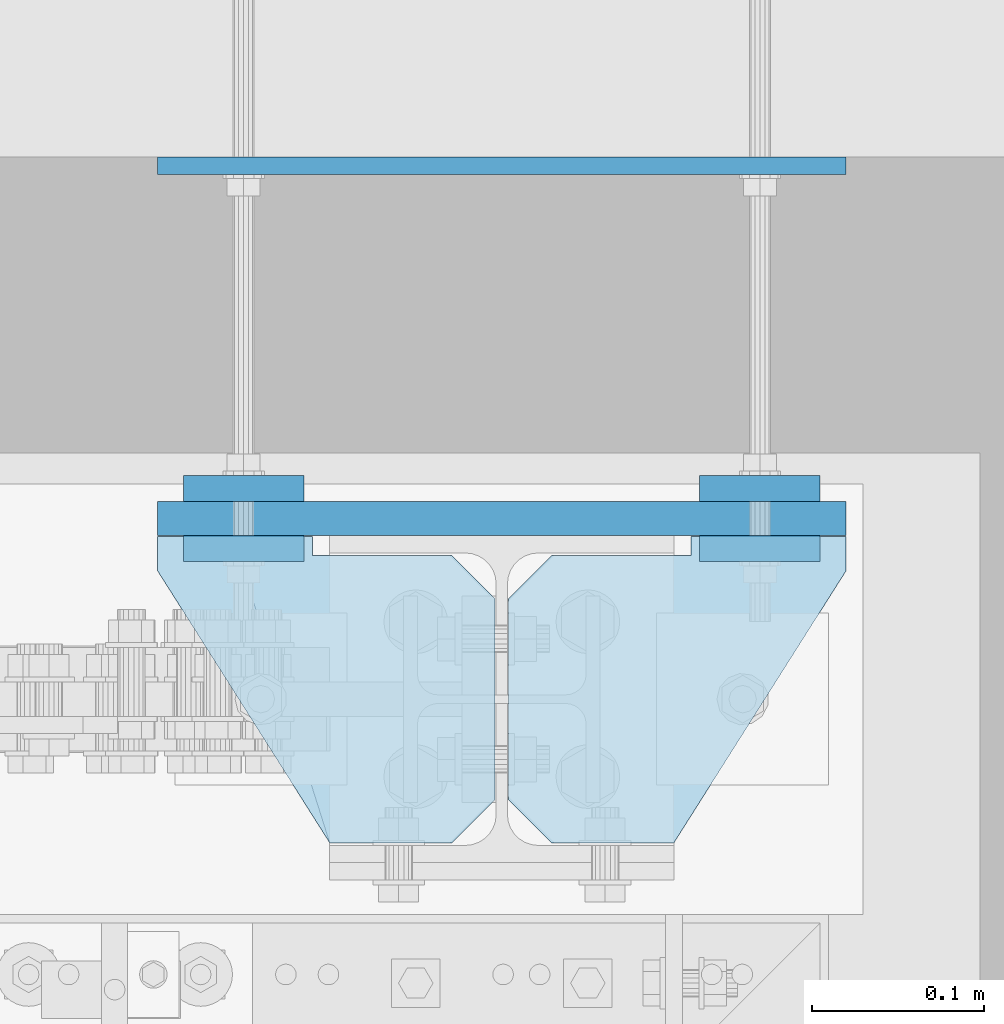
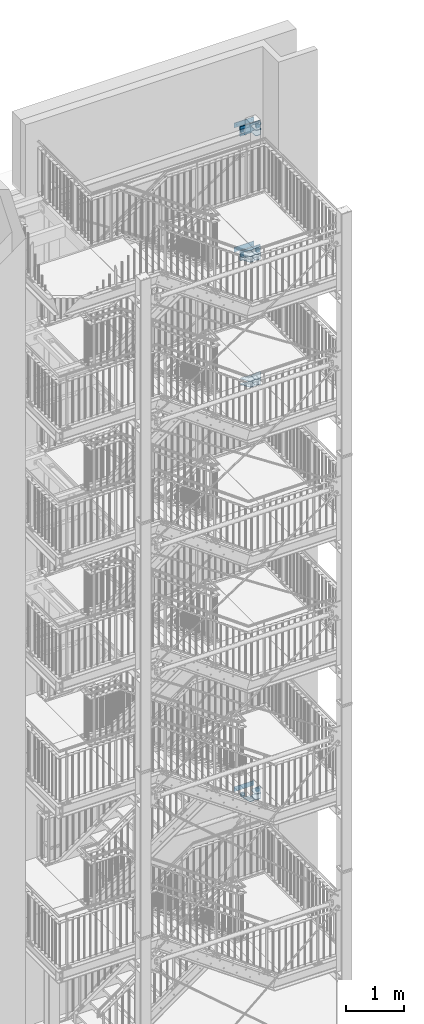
# One storey, part 216 of 831: 30 plates, 48 openings.
"""IFC2X3 building model written with IfcOpenShell, lengths in millimetres."""

from ifc_helpers import new_model, entity, si_unit, converted_unit, frame, frame_2d, origin, origin_with_axes, origin_2d_with_axis, place, context, project, spatial, polyline, circle, outline, extrude, material, layer, layer_set, element, save


model = new_model("IFC2X3")

# Units and contexts
model_context = context("Model", 3, precision=1e-09, world=origin_with_axes())
ifc_project = project(units=[si_unit("LENGTHUNIT", "METRE", prefix="MILLI"), si_unit("AREAUNIT", "SQUARE_METRE"), si_unit("VOLUMEUNIT", "CUBIC_METRE"), converted_unit("PLANEANGLEUNIT", "DEGREE", entity("IfcPlaneAngleMeasure", 0.01745329), si_unit("PLANEANGLEUNIT", "RADIAN"), dimensions=[0, 0, 0, 0, 0, 0, 0])], contexts=[model_context])

# Site, building, storey
site_placement = place(None, origin_with_axes())
site = spatial("IfcSite", under=ifc_project, at=site_placement, Name="Site", CompositionType="ELEMENT")
building_placement = place(site_placement, origin_with_axes())
building = spatial("IfcBuilding", under=site, at=building_placement, Name="Struktur 1", CompositionType="ELEMENT")
storey_placement = place(building_placement, origin_with_axes())
storey = spatial("IfcBuildingStorey", under=building, at=storey_placement, Name="Default Storey", CompositionType="ELEMENT", Elevation=0.0)

# Plate, openings
ifc_material = material(Name="S235JR")
ifc_layer_1 = layer(ifc_material, 10.0)
ifc_layer_set_1 = layer_set([ifc_layer_1], Name="S235JR")
plate_1_placement = place(None, frame((8666.713402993, 7611.236971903, 12569.000000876), z_axis=(0.0, 0.0, 1.0), x_axis=(0.0, -1.0, 0.0)))
plate_1 = element("IfcPlate", 1, at=plate_1_placement, inside=storey, material=ifc_layer_set_1, Name="-", ObjectType="-", context=model_context, shape_type="SweptSolid", body=[
    extrude(outline(polyline([(0.0, 0.0), (20.0, 0.0), (178.0, 100.0), (178.0, 196.0), (11.0, 196.0), (11.0, 90.0), (0.0, 90.0), (0.0, 0.0)])), origin_with_axes(), (0.0, 0.0, 1.0), 10.0),
])
opening_1_placement = place(plate_1_placement, frame((0.0, 0.0, -0.01), z_axis=(0.0, 0.0, 1.0), x_axis=(1.0, 0.0, 0.0)))
element("IfcOpeningElement", 2, at=opening_1_placement, cuts=plate_1, ObjectType="Opening", context=model_context, shape_type="SweptSolid", body=[
    extrude(outline(polyline([(11.0, 196.0), (11.0, 171.0), (36.0, 196.0), (11.0, 196.0)])), origin(), (0.0, 0.0, 1.0), 10.02),
])
opening_2_placement = place(plate_1_placement, frame((0.0, 0.0, -0.01), z_axis=(0.0, 0.0, 1.0), x_axis=(1.0, 0.0, 0.0)))
element("IfcOpeningElement", 3, at=opening_2_placement, cuts=plate_1, ObjectType="Opening", context=model_context, shape_type="SweptSolid", body=[
    extrude(outline(polyline([(178.0, 196.0), (153.0, 196.0), (178.0, 171.0), (178.0, 196.0)])), origin(), (0.0, 0.0, 1.0), 10.02),
])

plate_2_placement = place(None, frame((8666.713402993, 7611.236971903, 12449.000000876), z_axis=(0.0, 0.0, 1.0), x_axis=(0.0, -1.0, 0.0)))
plate_2 = element("IfcPlate", 4, at=plate_2_placement, inside=storey, material=ifc_layer_set_1, Name="-", ObjectType="-", context=model_context, shape_type="SweptSolid", body=[
    extrude(outline(polyline([(0.0, 0.0), (20.0, 0.0), (178.0, 100.0), (178.0, 196.0), (11.0, 196.0), (11.0, 90.0), (0.0, 90.0), (0.0, 0.0)])), origin_with_axes(), (0.0, 0.0, 1.0), 10.0),
])
opening_3_placement = place(plate_2_placement, frame((0.0, 0.0, -0.01), z_axis=(0.0, 0.0, 1.0), x_axis=(1.0, 0.0, 0.0)))
element("IfcOpeningElement", 5, at=opening_3_placement, cuts=plate_2, ObjectType="Opening", context=model_context, shape_type="SweptSolid", body=[
    extrude(outline(polyline([(11.0, 196.0), (11.0, 171.0), (36.0, 196.0), (11.0, 196.0)])), origin(), (0.0, 0.0, 1.0), 10.02),
])
opening_4_placement = place(plate_2_placement, frame((0.0, 0.0, -0.01), z_axis=(0.0, 0.0, 1.0), x_axis=(1.0, 0.0, 0.0)))
element("IfcOpeningElement", 6, at=opening_4_placement, cuts=plate_2, ObjectType="Opening", context=model_context, shape_type="SweptSolid", body=[
    extrude(outline(polyline([(178.0, 196.0), (153.0, 196.0), (178.0, 171.0), (178.0, 196.0)])), origin(), (0.0, 0.0, 1.0), 10.02),
])

plate_3_placement = place(None, frame((9066.713402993, 7611.236971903, 12569.000000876), z_axis=(0.0, 0.0, -1.0), x_axis=(0.0, -1.0, 0.0)))
plate_3 = element("IfcPlate", 7, at=plate_3_placement, inside=storey, material=ifc_layer_set_1, Name="-", ObjectType="-", context=model_context, shape_type="SweptSolid", body=[
    extrude(outline(polyline([(0.0, 0.0), (20.0, 0.0), (178.0, 100.0), (178.0, 196.0), (11.0, 196.0), (11.0, 90.0), (0.0, 90.0), (0.0, 0.0)])), origin_with_axes(), (0.0, 0.0, -1.0), 10.0),
])
opening_5_placement = place(plate_3_placement, frame((11.0, 196.0, 0.01), z_axis=(0.0, 0.0, 1.0), x_axis=(0.0, -1.0, 0.0)))
element("IfcOpeningElement", 8, at=opening_5_placement, cuts=plate_3, ObjectType="Opening", context=model_context, shape_type="SweptSolid", body=[
    extrude(outline(polyline([(0.0, 0.0), (25.0, 0.0), (0.0, 25.0), (0.0, 0.0)])), origin(), (0.0, 0.0, -1.0), 10.02),
])
opening_6_placement = place(plate_3_placement, frame((178.0, 196.0, 0.01), z_axis=(0.0, 0.0, 1.0), x_axis=(-1.0, 0.0, 0.0)))
element("IfcOpeningElement", 9, at=opening_6_placement, cuts=plate_3, ObjectType="Opening", context=model_context, shape_type="SweptSolid", body=[
    extrude(outline(polyline([(0.0, 0.0), (25.0, 0.0), (0.0, 25.0), (0.0, 0.0)])), origin(), (0.0, 0.0, -1.0), 10.02),
])

plate_4_placement = place(None, frame((9066.713402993, 7611.236971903, 12449.000000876), z_axis=(0.0, 0.0, -1.0), x_axis=(0.0, -1.0, 0.0)))
plate_4 = element("IfcPlate", 10, at=plate_4_placement, inside=storey, material=ifc_layer_set_1, Name="-", ObjectType="-", context=model_context, shape_type="SweptSolid", body=[
    extrude(outline(polyline([(0.0, 0.0), (20.0, 0.0), (178.0, 100.0), (178.0, 196.0), (11.0, 196.0), (11.0, 90.0), (0.0, 90.0), (0.0, 0.0)])), origin_with_axes(), (0.0, 0.0, -1.0), 10.0),
])
opening_7_placement = place(plate_4_placement, frame((11.0, 196.0, 0.01), z_axis=(0.0, 0.0, 1.0), x_axis=(0.0, -1.0, 0.0)))
element("IfcOpeningElement", 11, at=opening_7_placement, cuts=plate_4, ObjectType="Opening", context=model_context, shape_type="SweptSolid", body=[
    extrude(outline(polyline([(0.0, 0.0), (25.0, 0.0), (0.0, 25.0), (0.0, 0.0)])), origin(), (0.0, 0.0, -1.0), 10.02),
])
opening_8_placement = place(plate_4_placement, frame((178.0, 196.0, 0.01), z_axis=(0.0, 0.0, 1.0), x_axis=(-1.0, 0.0, 0.0)))
element("IfcOpeningElement", 12, at=opening_8_placement, cuts=plate_4, ObjectType="Opening", context=model_context, shape_type="SweptSolid", body=[
    extrude(outline(polyline([(0.0, 0.0), (25.0, 0.0), (0.0, 25.0), (0.0, 0.0)])), origin(), (0.0, 0.0, -1.0), 10.02),
])

# Plate, opening
ifc_layer_2 = layer(ifc_material, 15.0)
ifc_layer_set_2 = layer_set([ifc_layer_2], Name="S235JR")
plate_5_placement = place(None, frame((9016.713403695, 7646.736971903, 15149.0), z_axis=(0.0, 1.0, 0.0), x_axis=(-1.0, 0.0, 0.0)))
plate_5 = element("IfcPlate", 13, at=plate_5_placement, inside=storey, material=ifc_layer_set_2, Name="-", ObjectType="-", context=model_context, shape_type="SweptSolid", body=[
    extrude(outline(polyline([(-35.0, -35.0), (35.0, -35.0), (35.0, 35.0), (-35.0, 35.0), (-35.0, -35.0)])), origin_with_axes(), (0.0, 0.0, -1.0), 15.0),
])
opening_9_placement = place(plate_5_placement, frame((-7.001000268, 0.0, 0.5), z_axis=(0.0, 0.0, 1.0), x_axis=(1.0, 0.0, 0.0)))
element("IfcOpeningElement", 14, at=opening_9_placement, cuts=plate_5, ObjectType="Opening", context=model_context, shape_type="SweptSolid", body=[
    extrude(circle(Radius=7.001, at=frame_2d((7.001, 0.0), x_axis=(1.0, 0.0))), origin(), (0.0, 0.0, -1.0), 16.0),
])

plate_6_placement = place(None, frame((9016.713403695, 7611.736971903, 15149.0), z_axis=(0.0, 1.0, 0.0), x_axis=(-1.0, 0.0, 0.0)))
plate_6 = element("IfcPlate", 15, at=plate_6_placement, inside=storey, material=ifc_layer_set_2, Name="-", ObjectType="-", context=model_context, shape_type="SweptSolid", body=[
    extrude(outline(polyline([(-35.0, -35.0), (35.0, -35.0), (35.0, 35.0), (-35.0, 35.0), (-35.0, -35.0)])), origin_with_axes(), (0.0, 0.0, -1.0), 15.0),
])
opening_10_placement = place(plate_6_placement, frame((-7.001000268, 0.0, 0.5), z_axis=(0.0, 0.0, 1.0), x_axis=(1.0, 0.0, 0.0)))
element("IfcOpeningElement", 16, at=opening_10_placement, cuts=plate_6, ObjectType="Opening", context=model_context, shape_type="SweptSolid", body=[
    extrude(circle(Radius=7.001, at=frame_2d((7.001, 0.0), x_axis=(1.0, 0.0))), origin(), (0.0, 0.0, -1.0), 16.0),
])

# Plate, openings
plate_7_placement = place(None, frame((8866.713402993, 7831.736971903, 15149.000000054), z_axis=(0.0, -1.0, 0.0), x_axis=(1.0, 0.0, 0.0)))
plate_7 = element("IfcPlate", 17, at=plate_7_placement, inside=storey, material=ifc_layer_set_1, Name="-", ObjectType="-", context=model_context, shape_type="SweptSolid", body=[
    extrude(outline(polyline([(-200.0, -50.0), (200.0, -50.0), (200.0, 50.0), (-200.0, 50.0), (-200.0, -50.0)])), origin_with_axes(), (0.0, 0.0, 1.0), 10.0),
])
opening_11_placement = place(plate_7_placement, frame((-3.4e-08, -5.4e-08, -0.5), z_axis=(0.0, 0.0, 1.0), x_axis=(1.0, 0.0, 0.0)))
element("IfcOpeningElement", 18, at=opening_11_placement, cuts=plate_7, ObjectType="Opening", context=model_context, shape_type="SweptSolid", body=[
    extrude(circle(Radius=7.001, at=frame_2d((150.0, 0.0), x_axis=(1.0, 0.0))), origin(), (0.0, 0.0, 1.0), 11.0),
])
opening_12_placement = place(plate_7_placement, frame((-3.4e-08, -5.4e-08, -0.5), z_axis=(0.0, 0.0, 1.0), x_axis=(1.0, 0.0, 0.0)))
element("IfcOpeningElement", 19, at=opening_12_placement, cuts=plate_7, ObjectType="Opening", context=model_context, shape_type="SweptSolid", body=[
    extrude(circle(Radius=7.001, at=frame_2d((-150.0, 0.0), x_axis=(1.0, 0.0))), origin(), (0.0, 0.0, 1.0), 11.0),
])

# Plate, opening
plate_8_placement = place(None, frame((8716.71340296, 7646.736971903, 15149.0), z_axis=(0.0, -1.0, 0.0), x_axis=(1.0, 0.0, 0.0)))
plate_8 = element("IfcPlate", 20, at=plate_8_placement, inside=storey, material=ifc_layer_set_2, Name="-", ObjectType="-", context=model_context, shape_type="SweptSolid", body=[
    extrude(outline(polyline([(-35.0, -35.0), (35.0, -35.0), (35.0, 35.0), (-35.0, 35.0), (-35.0, -35.0)])), origin_with_axes(), (0.0, 0.0, 1.0), 15.0),
])
opening_13_placement = place(plate_8_placement, frame((-2.68e-07, 0.0, -0.5), z_axis=(0.0, 0.0, 1.0), x_axis=(1.0, 0.0, 0.0)))
element("IfcOpeningElement", 21, at=opening_13_placement, cuts=plate_8, ObjectType="Opening", context=model_context, shape_type="SweptSolid", body=[
    extrude(circle(Radius=7.001, at=origin_2d_with_axis()), origin(), (0.0, 0.0, 1.0), 16.0),
])

plate_9_placement = place(None, frame((8716.71340296, 7611.736971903, 15149.0), z_axis=(0.0, -1.0, 0.0), x_axis=(1.0, 0.0, 0.0)))
plate_9 = element("IfcPlate", 22, at=plate_9_placement, inside=storey, material=ifc_layer_set_2, Name="-", ObjectType="-", context=model_context, shape_type="SweptSolid", body=[
    extrude(outline(polyline([(-35.0, -35.0), (35.0, -35.0), (35.0, 35.0), (-35.0, 35.0), (-35.0, -35.0)])), origin_with_axes(), (0.0, 0.0, 1.0), 15.0),
])
opening_14_placement = place(plate_9_placement, frame((-2.68e-07, 0.0, -0.5), z_axis=(0.0, 0.0, 1.0), x_axis=(1.0, 0.0, 0.0)))
element("IfcOpeningElement", 23, at=opening_14_placement, cuts=plate_9, ObjectType="Opening", context=model_context, shape_type="SweptSolid", body=[
    extrude(circle(Radius=7.001, at=origin_2d_with_axis()), origin(), (0.0, 0.0, 1.0), 16.0),
])

# Plate, openings
plate_10_placement = place(None, frame((9066.713402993, 7611.236971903, 15084.000000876), z_axis=(0.0, 0.0, -1.0), x_axis=(0.0, -1.0, 0.0)))
plate_10 = element("IfcPlate", 24, at=plate_10_placement, inside=storey, material=ifc_layer_set_1, Name="-", ObjectType="-", context=model_context, shape_type="SweptSolid", body=[
    extrude(outline(polyline([(0.0, 0.0), (20.0, 0.0), (178.0, 100.0), (178.0, 196.0), (11.0, 196.0), (11.0, 90.0), (0.0, 90.0), (0.0, 0.0)])), origin_with_axes(), (0.0, 0.0, -1.0), 10.0),
])
opening_15_placement = place(plate_10_placement, frame((11.0, 196.0, 0.01), z_axis=(0.0, 0.0, 1.0), x_axis=(0.0, -1.0, 0.0)))
element("IfcOpeningElement", 25, at=opening_15_placement, cuts=plate_10, ObjectType="Opening", context=model_context, shape_type="SweptSolid", body=[
    extrude(outline(polyline([(0.0, 0.0), (25.0, 0.0), (0.0, 25.0), (0.0, 0.0)])), origin(), (0.0, 0.0, -1.0), 10.02),
])
opening_16_placement = place(plate_10_placement, frame((178.0, 196.0, 0.01), z_axis=(0.0, 0.0, 1.0), x_axis=(-1.0, 0.0, 0.0)))
element("IfcOpeningElement", 26, at=opening_16_placement, cuts=plate_10, ObjectType="Opening", context=model_context, shape_type="SweptSolid", body=[
    extrude(outline(polyline([(0.0, 0.0), (25.0, 0.0), (0.0, 25.0), (0.0, 0.0)])), origin(), (0.0, 0.0, -1.0), 10.02),
])

plate_11_placement = place(None, frame((9066.713402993, 7611.236971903, 15204.000000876), z_axis=(0.0, 0.0, -1.0), x_axis=(0.0, -1.0, 0.0)))
plate_11 = element("IfcPlate", 27, at=plate_11_placement, inside=storey, material=ifc_layer_set_1, Name="-", ObjectType="-", context=model_context, shape_type="SweptSolid", body=[
    extrude(outline(polyline([(0.0, 0.0), (20.0, 0.0), (178.0, 100.0), (178.0, 196.0), (11.0, 196.0), (11.0, 90.0), (0.0, 90.0), (0.0, 0.0)])), origin_with_axes(), (0.0, 0.0, -1.0), 10.0),
])
opening_17_placement = place(plate_11_placement, frame((11.0, 196.0, 0.01), z_axis=(0.0, 0.0, 1.0), x_axis=(0.0, -1.0, 0.0)))
element("IfcOpeningElement", 28, at=opening_17_placement, cuts=plate_11, ObjectType="Opening", context=model_context, shape_type="SweptSolid", body=[
    extrude(outline(polyline([(0.0, 0.0), (25.0, 0.0), (0.0, 25.0), (0.0, 0.0)])), origin(), (0.0, 0.0, -1.0), 10.02),
])
opening_18_placement = place(plate_11_placement, frame((178.0, 196.0, 0.01), z_axis=(0.0, 0.0, 1.0), x_axis=(-1.0, 0.0, 0.0)))
element("IfcOpeningElement", 29, at=opening_18_placement, cuts=plate_11, ObjectType="Opening", context=model_context, shape_type="SweptSolid", body=[
    extrude(outline(polyline([(0.0, 0.0), (25.0, 0.0), (0.0, 25.0), (0.0, 0.0)])), origin(), (0.0, 0.0, -1.0), 10.02),
])

plate_12_placement = place(None, frame((8666.713402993, 7611.236971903, 15084.000000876), z_axis=(0.0, 0.0, 1.0), x_axis=(0.0, -1.0, 0.0)))
plate_12 = element("IfcPlate", 30, at=plate_12_placement, inside=storey, material=ifc_layer_set_1, Name="-", ObjectType="-", context=model_context, shape_type="SweptSolid", body=[
    extrude(outline(polyline([(0.0, 0.0), (20.0, 0.0), (178.0, 100.0), (178.0, 196.0), (11.0, 196.0), (11.0, 90.0), (0.0, 90.0), (0.0, 0.0)])), origin_with_axes(), (0.0, 0.0, 1.0), 10.0),
])
opening_19_placement = place(plate_12_placement, frame((0.0, 0.0, -0.01), z_axis=(0.0, 0.0, 1.0), x_axis=(1.0, 0.0, 0.0)))
element("IfcOpeningElement", 31, at=opening_19_placement, cuts=plate_12, ObjectType="Opening", context=model_context, shape_type="SweptSolid", body=[
    extrude(outline(polyline([(11.0, 196.0), (11.0, 171.0), (36.0, 196.0), (11.0, 196.0)])), origin(), (0.0, 0.0, 1.0), 10.02),
])
opening_20_placement = place(plate_12_placement, frame((0.0, 0.0, -0.01), z_axis=(0.0, 0.0, 1.0), x_axis=(1.0, 0.0, 0.0)))
element("IfcOpeningElement", 32, at=opening_20_placement, cuts=plate_12, ObjectType="Opening", context=model_context, shape_type="SweptSolid", body=[
    extrude(outline(polyline([(178.0, 196.0), (153.0, 196.0), (178.0, 171.0), (178.0, 196.0)])), origin(), (0.0, 0.0, 1.0), 10.02),
])

plate_13_placement = place(None, frame((8666.713402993, 7611.236971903, 15204.000000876), z_axis=(0.0, 0.0, 1.0), x_axis=(0.0, -1.0, 0.0)))
plate_13 = element("IfcPlate", 33, at=plate_13_placement, inside=storey, material=ifc_layer_set_1, Name="-", ObjectType="-", context=model_context, shape_type="SweptSolid", body=[
    extrude(outline(polyline([(0.0, 0.0), (20.0, 0.0), (178.0, 100.0), (178.0, 196.0), (11.0, 196.0), (11.0, 90.0), (0.0, 90.0), (0.0, 0.0)])), origin_with_axes(), (0.0, 0.0, 1.0), 10.0),
])
opening_21_placement = place(plate_13_placement, frame((0.0, 0.0, -0.01), z_axis=(0.0, 0.0, 1.0), x_axis=(1.0, 0.0, 0.0)))
element("IfcOpeningElement", 34, at=opening_21_placement, cuts=plate_13, ObjectType="Opening", context=model_context, shape_type="SweptSolid", body=[
    extrude(outline(polyline([(11.0, 196.0), (11.0, 171.0), (36.0, 196.0), (11.0, 196.0)])), origin(), (0.0, 0.0, 1.0), 10.02),
])
opening_22_placement = place(plate_13_placement, frame((0.0, 0.0, -0.01), z_axis=(0.0, 0.0, 1.0), x_axis=(1.0, 0.0, 0.0)))
element("IfcOpeningElement", 35, at=opening_22_placement, cuts=plate_13, ObjectType="Opening", context=model_context, shape_type="SweptSolid", body=[
    extrude(outline(polyline([(178.0, 196.0), (153.0, 196.0), (178.0, 171.0), (178.0, 196.0)])), origin(), (0.0, 0.0, 1.0), 10.02),
])

ifc_layer_3 = layer(ifc_material, 20.0)
ifc_layer_set_3 = layer_set([ifc_layer_3], Name="S235JR")
plate_14_placement = place(None, frame((8866.713402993, 7631.736971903, 15149.000000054), z_axis=(0.0, -1.0, 0.0), x_axis=(1.0, 0.0, 0.0)))
plate_14 = element("IfcPlate", 36, at=plate_14_placement, inside=storey, material=ifc_layer_set_3, Name="-", ObjectType="-", context=model_context, shape_type="SweptSolid", body=[
    extrude(outline(polyline([(-200.0, -100.0), (200.0, -100.0), (200.0, 100.0), (-200.0, 100.0), (-200.0, -100.0)])), origin_with_axes(), (0.0, 0.0, 1.0), 20.0),
])
opening_23_placement = place(plate_14_placement, frame((-3.4e-08, -5.4e-08, -0.5), z_axis=(0.0, 0.0, 1.0), x_axis=(1.0, 0.0, 0.0)))
element("IfcOpeningElement", 37, at=opening_23_placement, cuts=plate_14, ObjectType="Opening", context=model_context, shape_type="SweptSolid", body=[
    extrude(circle(Radius=20.001, at=frame_2d((150.0, 0.0), x_axis=(1.0, 0.0))), origin(), (0.0, 0.0, 1.0), 21.0),
])
opening_24_placement = place(plate_14_placement, frame((-3.4e-08, -5.4e-08, -0.5), z_axis=(0.0, 0.0, 1.0), x_axis=(1.0, 0.0, 0.0)))
element("IfcOpeningElement", 38, at=opening_24_placement, cuts=plate_14, ObjectType="Opening", context=model_context, shape_type="SweptSolid", body=[
    extrude(circle(Radius=20.001, at=frame_2d((-150.0, 0.0), x_axis=(1.0, 0.0))), origin(), (0.0, 0.0, 1.0), 21.0),
])

# Plate, opening
plate_15_placement = place(None, frame((8716.71340296, 7611.736971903, 17769.0), z_axis=(0.0, -1.0, 0.0), x_axis=(1.0, 0.0, 0.0)))
plate_15 = element("IfcPlate", 39, at=plate_15_placement, inside=storey, material=ifc_layer_set_2, Name="-", ObjectType="-", context=model_context, shape_type="SweptSolid", body=[
    extrude(outline(polyline([(-35.0, -35.0), (35.0, -35.0), (35.0, 35.0), (-35.0, 35.0), (-35.0, -35.0)])), origin_with_axes(), (0.0, 0.0, 1.0), 15.0),
])
opening_25_placement = place(plate_15_placement, frame((-2.68e-07, 0.0, -0.5), z_axis=(0.0, 0.0, 1.0), x_axis=(1.0, 0.0, 0.0)))
element("IfcOpeningElement", 40, at=opening_25_placement, cuts=plate_15, ObjectType="Opening", context=model_context, shape_type="SweptSolid", body=[
    extrude(circle(Radius=7.001, at=origin_2d_with_axis()), origin(), (0.0, 0.0, 1.0), 16.0),
])

plate_16_placement = place(None, frame((8716.71340296, 7646.736971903, 17769.0), z_axis=(0.0, -1.0, 0.0), x_axis=(1.0, 0.0, 0.0)))
plate_16 = element("IfcPlate", 41, at=plate_16_placement, inside=storey, material=ifc_layer_set_2, Name="-", ObjectType="-", context=model_context, shape_type="SweptSolid", body=[
    extrude(outline(polyline([(-35.0, -35.0), (35.0, -35.0), (35.0, 35.0), (-35.0, 35.0), (-35.0, -35.0)])), origin_with_axes(), (0.0, 0.0, 1.0), 15.0),
])
opening_26_placement = place(plate_16_placement, frame((-2.68e-07, 0.0, -0.5), z_axis=(0.0, 0.0, 1.0), x_axis=(1.0, 0.0, 0.0)))
element("IfcOpeningElement", 42, at=opening_26_placement, cuts=plate_16, ObjectType="Opening", context=model_context, shape_type="SweptSolid", body=[
    extrude(circle(Radius=7.001, at=origin_2d_with_axis()), origin(), (0.0, 0.0, 1.0), 16.0),
])

# Plate, openings
plate_17_placement = place(None, frame((8866.713402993, 7831.736971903, 17769.000000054), z_axis=(0.0, -1.0, 0.0), x_axis=(1.0, 0.0, 0.0)))
plate_17 = element("IfcPlate", 43, at=plate_17_placement, inside=storey, material=ifc_layer_set_1, Name="-", ObjectType="-", context=model_context, shape_type="SweptSolid", body=[
    extrude(outline(polyline([(-200.0, -50.0), (200.0, -50.0), (200.0, 50.0), (-200.0, 50.0), (-200.0, -50.0)])), origin_with_axes(), (0.0, 0.0, 1.0), 10.0),
])
opening_27_placement = place(plate_17_placement, frame((-3.4e-08, -5.4e-08, -0.5), z_axis=(0.0, 0.0, 1.0), x_axis=(1.0, 0.0, 0.0)))
element("IfcOpeningElement", 44, at=opening_27_placement, cuts=plate_17, ObjectType="Opening", context=model_context, shape_type="SweptSolid", body=[
    extrude(circle(Radius=7.001, at=frame_2d((150.0, 0.0), x_axis=(1.0, 0.0))), origin(), (0.0, 0.0, 1.0), 11.0),
])
opening_28_placement = place(plate_17_placement, frame((-3.4e-08, -5.4e-08, -0.5), z_axis=(0.0, 0.0, 1.0), x_axis=(1.0, 0.0, 0.0)))
element("IfcOpeningElement", 45, at=opening_28_placement, cuts=plate_17, ObjectType="Opening", context=model_context, shape_type="SweptSolid", body=[
    extrude(circle(Radius=7.001, at=frame_2d((-150.0, 0.0), x_axis=(1.0, 0.0))), origin(), (0.0, 0.0, 1.0), 11.0),
])

# Plate, opening
plate_18_placement = place(None, frame((9016.713403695, 7611.736971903, 17769.0), z_axis=(0.0, 1.0, 0.0), x_axis=(-1.0, 0.0, 0.0)))
plate_18 = element("IfcPlate", 46, at=plate_18_placement, inside=storey, material=ifc_layer_set_2, Name="-", ObjectType="-", context=model_context, shape_type="SweptSolid", body=[
    extrude(outline(polyline([(-35.0, -35.0), (35.0, -35.0), (35.0, 35.0), (-35.0, 35.0), (-35.0, -35.0)])), origin_with_axes(), (0.0, 0.0, -1.0), 15.0),
])
opening_29_placement = place(plate_18_placement, frame((-7.001000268, 0.0, 0.5), z_axis=(0.0, 0.0, 1.0), x_axis=(1.0, 0.0, 0.0)))
element("IfcOpeningElement", 47, at=opening_29_placement, cuts=plate_18, ObjectType="Opening", context=model_context, shape_type="SweptSolid", body=[
    extrude(circle(Radius=7.001, at=frame_2d((7.001, 0.0), x_axis=(1.0, 0.0))), origin(), (0.0, 0.0, -1.0), 16.0),
])

plate_19_placement = place(None, frame((9016.713403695, 7646.736971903, 17769.0), z_axis=(0.0, 1.0, 0.0), x_axis=(-1.0, 0.0, 0.0)))
plate_19 = element("IfcPlate", 48, at=plate_19_placement, inside=storey, material=ifc_layer_set_2, Name="-", ObjectType="-", context=model_context, shape_type="SweptSolid", body=[
    extrude(outline(polyline([(-35.0, -35.0), (35.0, -35.0), (35.0, 35.0), (-35.0, 35.0), (-35.0, -35.0)])), origin_with_axes(), (0.0, 0.0, -1.0), 15.0),
])
opening_30_placement = place(plate_19_placement, frame((-7.001000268, 0.0, 0.5), z_axis=(0.0, 0.0, 1.0), x_axis=(1.0, 0.0, 0.0)))
element("IfcOpeningElement", 49, at=opening_30_placement, cuts=plate_19, ObjectType="Opening", context=model_context, shape_type="SweptSolid", body=[
    extrude(circle(Radius=7.001, at=frame_2d((7.001, 0.0), x_axis=(1.0, 0.0))), origin(), (0.0, 0.0, -1.0), 16.0),
])

# Plate, openings
plate_20_placement = place(None, frame((8866.713402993, 7631.736971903, 17769.000000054), z_axis=(0.0, -1.0, 0.0), x_axis=(1.0, 0.0, 0.0)))
plate_20 = element("IfcPlate", 50, at=plate_20_placement, inside=storey, material=ifc_layer_set_3, Name="-", ObjectType="-", context=model_context, shape_type="SweptSolid", body=[
    extrude(outline(polyline([(-200.0, -100.0), (200.0, -100.0), (200.0, 100.0), (-200.0, 100.0), (-200.0, -100.0)])), origin_with_axes(), (0.0, 0.0, 1.0), 20.0),
])
opening_31_placement = place(plate_20_placement, frame((-3.4e-08, -5.4e-08, -0.5), z_axis=(0.0, 0.0, 1.0), x_axis=(1.0, 0.0, 0.0)))
element("IfcOpeningElement", 51, at=opening_31_placement, cuts=plate_20, ObjectType="Opening", context=model_context, shape_type="SweptSolid", body=[
    extrude(circle(Radius=20.001, at=frame_2d((150.0, 0.0), x_axis=(1.0, 0.0))), origin(), (0.0, 0.0, 1.0), 21.0),
])
opening_32_placement = place(plate_20_placement, frame((-3.4e-08, -5.4e-08, -0.5), z_axis=(0.0, 0.0, 1.0), x_axis=(1.0, 0.0, 0.0)))
element("IfcOpeningElement", 52, at=opening_32_placement, cuts=plate_20, ObjectType="Opening", context=model_context, shape_type="SweptSolid", body=[
    extrude(circle(Radius=20.001, at=frame_2d((-150.0, 0.0), x_axis=(1.0, 0.0))), origin(), (0.0, 0.0, 1.0), 21.0),
])

plate_21_placement = place(None, frame((9066.713402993, 7611.236971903, 17824.000000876), z_axis=(0.0, 0.0, -1.0), x_axis=(0.0, -1.0, 0.0)))
plate_21 = element("IfcPlate", 53, at=plate_21_placement, inside=storey, material=ifc_layer_set_1, Name="-", ObjectType="-", context=model_context, shape_type="SweptSolid", body=[
    extrude(outline(polyline([(0.0, 0.0), (20.0, 0.0), (178.0, 100.0), (178.0, 196.0), (11.0, 196.0), (11.0, 90.0), (0.0, 90.0), (0.0, 0.0)])), origin_with_axes(), (0.0, 0.0, -1.0), 10.0),
])
opening_33_placement = place(plate_21_placement, frame((11.0, 196.0, 0.01), z_axis=(0.0, 0.0, 1.0), x_axis=(0.0, -1.0, 0.0)))
element("IfcOpeningElement", 54, at=opening_33_placement, cuts=plate_21, ObjectType="Opening", context=model_context, shape_type="SweptSolid", body=[
    extrude(outline(polyline([(0.0, 0.0), (25.0, 0.0), (0.0, 25.0), (0.0, 0.0)])), origin(), (0.0, 0.0, -1.0), 10.02),
])
opening_34_placement = place(plate_21_placement, frame((178.0, 196.0, 0.01), z_axis=(0.0, 0.0, 1.0), x_axis=(-1.0, 0.0, 0.0)))
element("IfcOpeningElement", 55, at=opening_34_placement, cuts=plate_21, ObjectType="Opening", context=model_context, shape_type="SweptSolid", body=[
    extrude(outline(polyline([(0.0, 0.0), (25.0, 0.0), (0.0, 25.0), (0.0, 0.0)])), origin(), (0.0, 0.0, -1.0), 10.02),
])

plate_22_placement = place(None, frame((9066.713402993, 7611.236971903, 17704.000000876), z_axis=(0.0, 0.0, -1.0), x_axis=(0.0, -1.0, 0.0)))
plate_22 = element("IfcPlate", 56, at=plate_22_placement, inside=storey, material=ifc_layer_set_1, Name="-", ObjectType="-", context=model_context, shape_type="SweptSolid", body=[
    extrude(outline(polyline([(0.0, 0.0), (20.0, 0.0), (178.0, 100.0), (178.0, 196.0), (11.0, 196.0), (11.0, 90.0), (0.0, 90.0), (0.0, 0.0)])), origin_with_axes(), (0.0, 0.0, -1.0), 10.0),
])
opening_35_placement = place(plate_22_placement, frame((11.0, 196.0, 0.01), z_axis=(0.0, 0.0, 1.0), x_axis=(0.0, -1.0, 0.0)))
element("IfcOpeningElement", 57, at=opening_35_placement, cuts=plate_22, ObjectType="Opening", context=model_context, shape_type="SweptSolid", body=[
    extrude(outline(polyline([(0.0, 0.0), (25.0, 0.0), (0.0, 25.0), (0.0, 0.0)])), origin(), (0.0, 0.0, -1.0), 10.02),
])
opening_36_placement = place(plate_22_placement, frame((178.0, 196.0, 0.01), z_axis=(0.0, 0.0, 1.0), x_axis=(-1.0, 0.0, 0.0)))
element("IfcOpeningElement", 58, at=opening_36_placement, cuts=plate_22, ObjectType="Opening", context=model_context, shape_type="SweptSolid", body=[
    extrude(outline(polyline([(0.0, 0.0), (25.0, 0.0), (0.0, 25.0), (0.0, 0.0)])), origin(), (0.0, 0.0, -1.0), 10.02),
])

# Plate, opening
plate_23_placement = place(None, frame((9016.713403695, 7646.736971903, 3782.0), z_axis=(0.0, 1.0, 0.0), x_axis=(-1.0, 0.0, 0.0)))
plate_23 = element("IfcPlate", 59, at=plate_23_placement, inside=storey, material=ifc_layer_set_2, Name="-", ObjectType="-", context=model_context, shape_type="SweptSolid", body=[
    extrude(outline(polyline([(-35.0, -35.0), (35.0, -35.0), (35.0, 35.0), (-35.0, 35.0), (-35.0, -35.0)])), origin_with_axes(), (0.0, 0.0, -1.0), 15.0),
])
opening_37_placement = place(plate_23_placement, frame((-7.001000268, 0.0, 0.5), z_axis=(0.0, 0.0, 1.0), x_axis=(1.0, 0.0, 0.0)))
element("IfcOpeningElement", 60, at=opening_37_placement, cuts=plate_23, ObjectType="Opening", context=model_context, shape_type="SweptSolid", body=[
    extrude(circle(Radius=7.001, at=frame_2d((7.001, 0.0), x_axis=(1.0, 0.0))), origin(), (0.0, 0.0, -1.0), 16.0),
])

plate_24_placement = place(None, frame((9016.713403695, 7611.736971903, 3782.0), z_axis=(0.0, 1.0, 0.0), x_axis=(-1.0, 0.0, 0.0)))
plate_24 = element("IfcPlate", 61, at=plate_24_placement, inside=storey, material=ifc_layer_set_2, Name="-", ObjectType="-", context=model_context, shape_type="SweptSolid", body=[
    extrude(outline(polyline([(-35.0, -35.0), (35.0, -35.0), (35.0, 35.0), (-35.0, 35.0), (-35.0, -35.0)])), origin_with_axes(), (0.0, 0.0, -1.0), 15.0),
])
opening_38_placement = place(plate_24_placement, frame((-7.001000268, 0.0, 0.5), z_axis=(0.0, 0.0, 1.0), x_axis=(1.0, 0.0, 0.0)))
element("IfcOpeningElement", 62, at=opening_38_placement, cuts=plate_24, ObjectType="Opening", context=model_context, shape_type="SweptSolid", body=[
    extrude(circle(Radius=7.001, at=frame_2d((7.001, 0.0), x_axis=(1.0, 0.0))), origin(), (0.0, 0.0, -1.0), 16.0),
])

# Plate, openings
plate_25_placement = place(None, frame((8866.713402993, 7831.736971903, 3782.000000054), z_axis=(0.0, -1.0, 0.0), x_axis=(1.0, 0.0, 0.0)))
plate_25 = element("IfcPlate", 63, at=plate_25_placement, inside=storey, material=ifc_layer_set_1, Name="-", ObjectType="-", context=model_context, shape_type="SweptSolid", body=[
    extrude(outline(polyline([(-200.0, -50.0), (200.0, -50.0), (200.0, 50.0), (-200.0, 50.0), (-200.0, -50.0)])), origin_with_axes(), (0.0, 0.0, 1.0), 10.0),
])
opening_39_placement = place(plate_25_placement, frame((-3.4e-08, -5.4e-08, -0.5), z_axis=(0.0, 0.0, 1.0), x_axis=(1.0, 0.0, 0.0)))
element("IfcOpeningElement", 64, at=opening_39_placement, cuts=plate_25, ObjectType="Opening", context=model_context, shape_type="SweptSolid", body=[
    extrude(circle(Radius=7.001, at=frame_2d((150.0, 0.0), x_axis=(1.0, 0.0))), origin(), (0.0, 0.0, 1.0), 11.0),
])
opening_40_placement = place(plate_25_placement, frame((-3.4e-08, -5.4e-08, -0.5), z_axis=(0.0, 0.0, 1.0), x_axis=(1.0, 0.0, 0.0)))
element("IfcOpeningElement", 65, at=opening_40_placement, cuts=plate_25, ObjectType="Opening", context=model_context, shape_type="SweptSolid", body=[
    extrude(circle(Radius=7.001, at=frame_2d((-150.0, 0.0), x_axis=(1.0, 0.0))), origin(), (0.0, 0.0, 1.0), 11.0),
])

# Plate, opening
plate_26_placement = place(None, frame((8716.71340296, 7646.736971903, 3782.0), z_axis=(0.0, -1.0, 0.0), x_axis=(1.0, 0.0, 0.0)))
plate_26 = element("IfcPlate", 66, at=plate_26_placement, inside=storey, material=ifc_layer_set_2, Name="-", ObjectType="-", context=model_context, shape_type="SweptSolid", body=[
    extrude(outline(polyline([(-35.0, -35.0), (35.0, -35.0), (35.0, 35.0), (-35.0, 35.0), (-35.0, -35.0)])), origin_with_axes(), (0.0, 0.0, 1.0), 15.0),
])
opening_41_placement = place(plate_26_placement, frame((-2.68e-07, 0.0, -0.5), z_axis=(0.0, 0.0, 1.0), x_axis=(1.0, 0.0, 0.0)))
element("IfcOpeningElement", 67, at=opening_41_placement, cuts=plate_26, ObjectType="Opening", context=model_context, shape_type="SweptSolid", body=[
    extrude(circle(Radius=7.001, at=origin_2d_with_axis()), origin(), (0.0, 0.0, 1.0), 16.0),
])

plate_27_placement = place(None, frame((8716.71340296, 7611.736971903, 3782.0), z_axis=(0.0, -1.0, 0.0), x_axis=(1.0, 0.0, 0.0)))
plate_27 = element("IfcPlate", 68, at=plate_27_placement, inside=storey, material=ifc_layer_set_2, Name="-", ObjectType="-", context=model_context, shape_type="SweptSolid", body=[
    extrude(outline(polyline([(-35.0, -35.0), (35.0, -35.0), (35.0, 35.0), (-35.0, 35.0), (-35.0, -35.0)])), origin_with_axes(), (0.0, 0.0, 1.0), 15.0),
])
opening_42_placement = place(plate_27_placement, frame((-2.68e-07, 0.0, -0.5), z_axis=(0.0, 0.0, 1.0), x_axis=(1.0, 0.0, 0.0)))
element("IfcOpeningElement", 69, at=opening_42_placement, cuts=plate_27, ObjectType="Opening", context=model_context, shape_type="SweptSolid", body=[
    extrude(circle(Radius=7.001, at=origin_2d_with_axis()), origin(), (0.0, 0.0, 1.0), 16.0),
])

# Plate, openings
plate_28_placement = place(None, frame((9066.713402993, 7611.236971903, 3717.000000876), z_axis=(0.0, 0.0, -1.0), x_axis=(0.0, -1.0, 0.0)))
plate_28 = element("IfcPlate", 70, at=plate_28_placement, inside=storey, material=ifc_layer_set_1, Name="-", ObjectType="-", context=model_context, shape_type="SweptSolid", body=[
    extrude(outline(polyline([(0.0, 0.0), (20.0, 0.0), (178.0, 100.0), (178.0, 196.0), (11.0, 196.0), (11.0, 90.0), (0.0, 90.0), (0.0, 0.0)])), origin_with_axes(), (0.0, 0.0, -1.0), 10.0),
])
opening_43_placement = place(plate_28_placement, frame((11.0, 196.0, 0.01), z_axis=(0.0, 0.0, 1.0), x_axis=(0.0, -1.0, 0.0)))
element("IfcOpeningElement", 71, at=opening_43_placement, cuts=plate_28, ObjectType="Opening", context=model_context, shape_type="SweptSolid", body=[
    extrude(outline(polyline([(0.0, 0.0), (25.0, 0.0), (0.0, 25.0), (0.0, 0.0)])), origin(), (0.0, 0.0, -1.0), 10.02),
])
opening_44_placement = place(plate_28_placement, frame((178.0, 196.0, 0.01), z_axis=(0.0, 0.0, 1.0), x_axis=(-1.0, 0.0, 0.0)))
element("IfcOpeningElement", 72, at=opening_44_placement, cuts=plate_28, ObjectType="Opening", context=model_context, shape_type="SweptSolid", body=[
    extrude(outline(polyline([(0.0, 0.0), (25.0, 0.0), (0.0, 25.0), (0.0, 0.0)])), origin(), (0.0, 0.0, -1.0), 10.02),
])

plate_29_placement = place(None, frame((9066.713402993, 7611.236971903, 3837.000000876), z_axis=(0.0, 0.0, -1.0), x_axis=(0.0, -1.0, 0.0)))
plate_29 = element("IfcPlate", 73, at=plate_29_placement, inside=storey, material=ifc_layer_set_1, Name="-", ObjectType="-", context=model_context, shape_type="SweptSolid", body=[
    extrude(outline(polyline([(0.0, 0.0), (20.0, 0.0), (178.0, 100.0), (178.0, 196.0), (11.0, 196.0), (11.0, 90.0), (0.0, 90.0), (0.0, 0.0)])), origin_with_axes(), (0.0, 0.0, -1.0), 10.0),
])
opening_45_placement = place(plate_29_placement, frame((11.0, 196.0, 0.01), z_axis=(0.0, 0.0, 1.0), x_axis=(0.0, -1.0, 0.0)))
element("IfcOpeningElement", 74, at=opening_45_placement, cuts=plate_29, ObjectType="Opening", context=model_context, shape_type="SweptSolid", body=[
    extrude(outline(polyline([(0.0, 0.0), (25.0, 0.0), (0.0, 25.0), (0.0, 0.0)])), origin(), (0.0, 0.0, -1.0), 10.02),
])
opening_46_placement = place(plate_29_placement, frame((178.0, 196.0, 0.01), z_axis=(0.0, 0.0, 1.0), x_axis=(-1.0, 0.0, 0.0)))
element("IfcOpeningElement", 75, at=opening_46_placement, cuts=plate_29, ObjectType="Opening", context=model_context, shape_type="SweptSolid", body=[
    extrude(outline(polyline([(0.0, 0.0), (25.0, 0.0), (0.0, 25.0), (0.0, 0.0)])), origin(), (0.0, 0.0, -1.0), 10.02),
])

plate_30_placement = place(None, frame((8666.713402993, 7611.236971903, 3717.000000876), z_axis=(0.0, 0.0, 1.0), x_axis=(0.0, -1.0, 0.0)))
plate_30 = element("IfcPlate", 76, at=plate_30_placement, inside=storey, material=ifc_layer_set_1, Name="-", ObjectType="-", context=model_context, shape_type="SweptSolid", body=[
    extrude(outline(polyline([(0.0, 49.919652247), (20.0, 49.999999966), (178.0, 100.0), (178.0, 196.0), (11.0, 196.0), (11.0, 90.0), (0.0, 90.0), (0.0, 49.919652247)])), origin_with_axes(), (0.0, 0.0, 1.0), 10.0),
])
opening_47_placement = place(plate_30_placement, frame((0.0, 0.0, -0.01), z_axis=(0.0, 0.0, 1.0), x_axis=(1.0, 0.0, 0.0)))
element("IfcOpeningElement", 77, at=opening_47_placement, cuts=plate_30, ObjectType="Opening", context=model_context, shape_type="SweptSolid", body=[
    extrude(outline(polyline([(11.0, 196.0), (11.0, 171.0), (36.0, 196.0), (11.0, 196.0)])), origin(), (0.0, 0.0, 1.0), 10.02),
])
opening_48_placement = place(plate_30_placement, frame((0.0, 0.0, -0.01), z_axis=(0.0, 0.0, 1.0), x_axis=(1.0, 0.0, 0.0)))
element("IfcOpeningElement", 78, at=opening_48_placement, cuts=plate_30, ObjectType="Opening", context=model_context, shape_type="SweptSolid", body=[
    extrude(outline(polyline([(178.0, 196.0), (153.0, 196.0), (178.0, 171.0), (178.0, 196.0)])), origin(), (0.0, 0.0, 1.0), 10.02),
])

save(model, "model.ifc")
